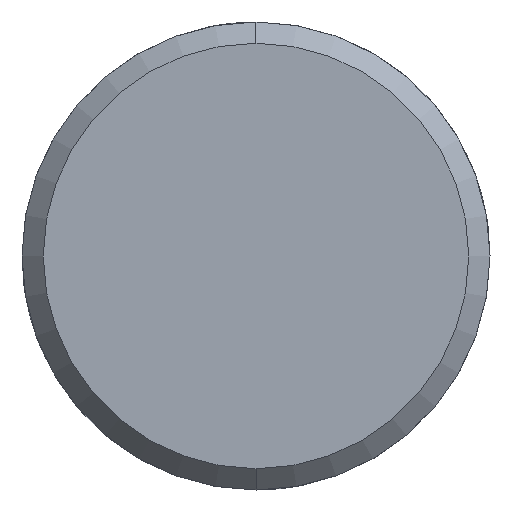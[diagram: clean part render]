
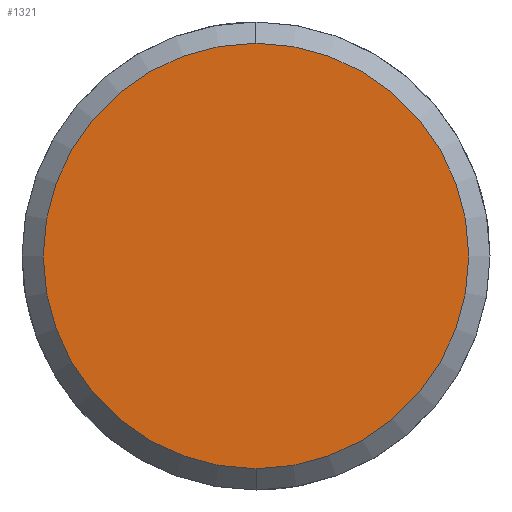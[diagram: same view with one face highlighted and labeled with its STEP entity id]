
A CAD part, left-side view. The second image highlights one B-rep face of the part: STEP entity #1321.
In plain terms, the highlighted planar face has unit normal (-1, 0, 0).
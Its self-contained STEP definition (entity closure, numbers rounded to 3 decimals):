
#1253=CARTESIAN_POINT('Vertex',(-5.,0.,-10.)) ;
#1256=CARTESIAN_POINT('Axis2P3D Location',(-5.,0.,0.)) ;
#1260=CARTESIAN_POINT('Vertex',(-5.,10.,0.)) ;
#1263=CARTESIAN_POINT('Axis2P3D Location',(-5.,0.,0.)) ;
#1267=CARTESIAN_POINT('Vertex',(-5.,0.,10.)) ;
#1289=CARTESIAN_POINT('Axis2P3D Location',(-5.,0.,0.)) ;
#1293=CARTESIAN_POINT('Vertex',(-5.,-10.,0.)) ;
#1296=CARTESIAN_POINT('Axis2P3D Location',(-5.,0.,0.)) ;
#1310=CARTESIAN_POINT('Axis2P3D Location',(-5.,0.,0.)) ;
#1257=DIRECTION('Axis2P3D Direction',(1.,0.,-0.)) ;
#1264=DIRECTION('Axis2P3D Direction',(1.,0.,-0.)) ;
#1290=DIRECTION('Axis2P3D Direction',(1.,0.,-0.)) ;
#1297=DIRECTION('Axis2P3D Direction',(1.,0.,-0.)) ;
#1311=DIRECTION('Axis2P3D Direction',(1.,0.,-0.)) ;
#1312=DIRECTION('Axis2P3D XDirection',(-0.,0.,-1.)) ;
#1258=AXIS2_PLACEMENT_3D('Circle Axis2P3D',#1256,#1257,$) ;
#1265=AXIS2_PLACEMENT_3D('Circle Axis2P3D',#1263,#1264,$) ;
#1291=AXIS2_PLACEMENT_3D('Circle Axis2P3D',#1289,#1290,$) ;
#1298=AXIS2_PLACEMENT_3D('Circle Axis2P3D',#1296,#1297,$) ;
#1313=AXIS2_PLACEMENT_3D('Plane Axis2P3D',#1310,#1311,#1312) ;
#1316=ORIENTED_EDGE('',*,*,#1262,.F.) ;
#1317=ORIENTED_EDGE('',*,*,#1300,.F.) ;
#1318=ORIENTED_EDGE('',*,*,#1295,.F.) ;
#1319=ORIENTED_EDGE('',*,*,#1269,.F.) ;
#1321=ADVANCED_FACE('351-12X36X120',(#1320),#1314,.F.) ;
#1259=CIRCLE('generated circle',#1258,10.) ;
#1266=CIRCLE('generated circle',#1265,10.) ;
#1292=CIRCLE('generated circle',#1291,10.) ;
#1299=CIRCLE('generated circle',#1298,10.) ;
#1262=EDGE_CURVE('',#1254,#1261,#1259,.T.) ;
#1269=EDGE_CURVE('',#1261,#1268,#1266,.T.) ;
#1295=EDGE_CURVE('',#1268,#1294,#1292,.T.) ;
#1300=EDGE_CURVE('',#1294,#1254,#1299,.T.) ;
#1315=EDGE_LOOP('',(#1316,#1317,#1318,#1319)) ;
#1320=FACE_OUTER_BOUND('',#1315,.T.) ;
#1314=PLANE('Plane',#1313) ;
#1254=VERTEX_POINT('',#1253) ;
#1261=VERTEX_POINT('',#1260) ;
#1268=VERTEX_POINT('',#1267) ;
#1294=VERTEX_POINT('',#1293) ;
